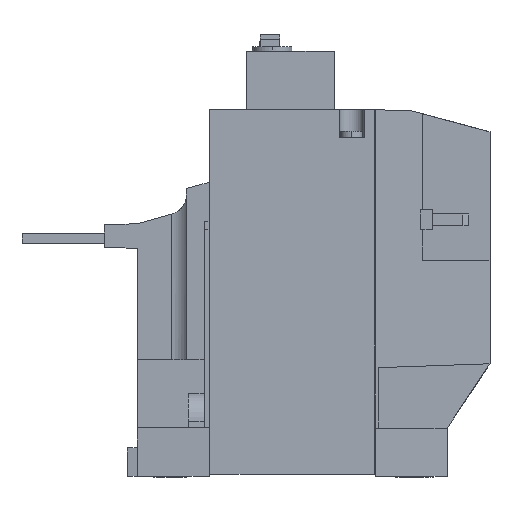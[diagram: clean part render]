
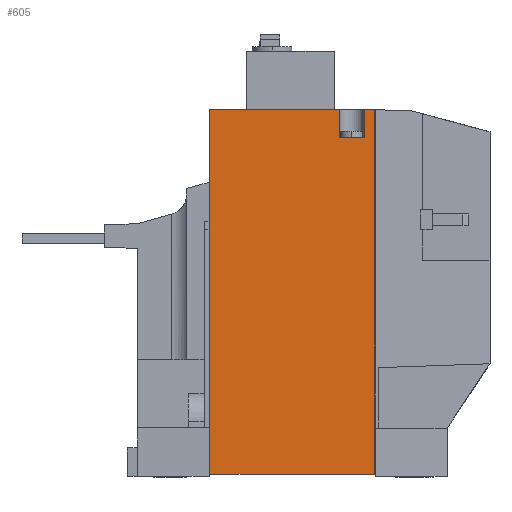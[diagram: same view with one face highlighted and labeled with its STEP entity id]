
A CAD part, left-side view. The second image highlights one B-rep face of the part: STEP entity #605.
In plain terms, the highlighted planar face has unit normal (-1, 0, 0).
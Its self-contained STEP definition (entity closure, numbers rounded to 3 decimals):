
#605 = ADVANCED_FACE( '', ( #1729 ), #1730, .F. );
#1729 = FACE_OUTER_BOUND( '', #2853, .T. );
#1730 = PLANE( '', #2854 );
#2853 = EDGE_LOOP( '', ( #7329, #7330, #7331, #7332, #7333, #7334, #7335, #7336 ) );
#2854 = AXIS2_PLACEMENT_3D( '', #7337, #7338, #7339 );
#7329 = ORIENTED_EDGE( '', *, *, #8771, .T. );
#7330 = ORIENTED_EDGE( '', *, *, #8352, .F. );
#7331 = ORIENTED_EDGE( '', *, *, #7743, .F. );
#7332 = ORIENTED_EDGE( '', *, *, #8785, .F. );
#7333 = ORIENTED_EDGE( '', *, *, #8198, .F. );
#7334 = ORIENTED_EDGE( '', *, *, #8356, .F. );
#7335 = ORIENTED_EDGE( '', *, *, #8770, .T. );
#7336 = ORIENTED_EDGE( '', *, *, #8775, .T. );
#7337 = CARTESIAN_POINT( '', ( 0., 0., 0. ) );
#7338 = DIRECTION( '', ( 1., 0., 0. ) );
#7339 = DIRECTION( '', ( 0., 0., -1. ) );
#7743 = EDGE_CURVE( '', #9493, #9495, #9496, .T. );
#8198 = EDGE_CURVE( '', #10240, #10242, #10243, .T. );
#8352 = EDGE_CURVE( '', #9495, #10497, #10498, .T. );
#8356 = EDGE_CURVE( '', #10503, #10240, #10505, .T. );
#8770 = EDGE_CURVE( '', #10503, #11169, #11171, .T. );
#8771 = EDGE_CURVE( '', #11172, #10497, #11173, .T. );
#8775 = EDGE_CURVE( '', #11169, #11172, #11178, .T. );
#8785 = EDGE_CURVE( '', #10242, #9493, #11192, .T. );
#9493 = VERTEX_POINT( '', #12259 );
#9495 = VERTEX_POINT( '', #12262 );
#9496 = LINE( '', #12263, #12264 );
#10240 = VERTEX_POINT( '', #13469 );
#10242 = VERTEX_POINT( '', #13472 );
#10243 = LINE( '', #13473, #13474 );
#10497 = VERTEX_POINT( '', #13868 );
#10498 = LINE( '', #13869, #13870 );
#10503 = VERTEX_POINT( '', #13876 );
#10505 = LINE( '', #13879, #13880 );
#11169 = VERTEX_POINT( '', #14916 );
#11171 = LINE( '', #14919, #14920 );
#11172 = VERTEX_POINT( '', #14921 );
#11173 = LINE( '', #14922, #14923 );
#11178 = LINE( '', #14930, #14931 );
#11192 = LINE( '', #14953, #14954 );
#12259 = CARTESIAN_POINT( '', ( 0., 25., 0. ) );
#12262 = CARTESIAN_POINT( '', ( 0., 25., 110.6 ) );
#12263 = CARTESIAN_POINT( '', ( 0., 25., 0. ) );
#12264 = VECTOR( '', #15574, 1. );
#13469 = CARTESIAN_POINT( '', ( 0., -25., 110.6 ) );
#13472 = CARTESIAN_POINT( '', ( 0., -25., 0. ) );
#13473 = CARTESIAN_POINT( '', ( 0., -25., 110.6 ) );
#13474 = VECTOR( '', #16073, 1. );
#13868 = CARTESIAN_POINT( '', ( 0., -14.2, 110.6 ) );
#13869 = CARTESIAN_POINT( '', ( 0., 25., 110.6 ) );
#13870 = VECTOR( '', #16253, 1. );
#13876 = CARTESIAN_POINT( '', ( 0., -21.8, 110.6 ) );
#13879 = CARTESIAN_POINT( '', ( 0., 25., 110.6 ) );
#13880 = VECTOR( '', #16259, 1. );
#14916 = CARTESIAN_POINT( '', ( 0., -21.8, 102.1 ) );
#14919 = CARTESIAN_POINT( '', ( 0., -21.8, 51.05 ) );
#14920 = VECTOR( '', #16753, 1. );
#14921 = CARTESIAN_POINT( '', ( 0., -14.2, 102.1 ) );
#14922 = CARTESIAN_POINT( '', ( 0., -14.2, 51.05 ) );
#14923 = VECTOR( '', #16754, 1. );
#14930 = CARTESIAN_POINT( '', ( 0., 0., 102.1 ) );
#14931 = VECTOR( '', #16760, 1. );
#14953 = CARTESIAN_POINT( '', ( 0., -25., 0. ) );
#14954 = VECTOR( '', #16772, 1. );
#15574 = DIRECTION( '', ( 0., 0., 1. ) );
#16073 = DIRECTION( '', ( 0., 0., -1. ) );
#16253 = DIRECTION( '', ( 0., -1., 0. ) );
#16259 = DIRECTION( '', ( 0., -1., 0. ) );
#16753 = DIRECTION( '', ( 0., 0., -1. ) );
#16754 = DIRECTION( '', ( 0., 0., 1. ) );
#16760 = DIRECTION( '', ( 0., 1., 0. ) );
#16772 = DIRECTION( '', ( 0., 1., 0. ) );
